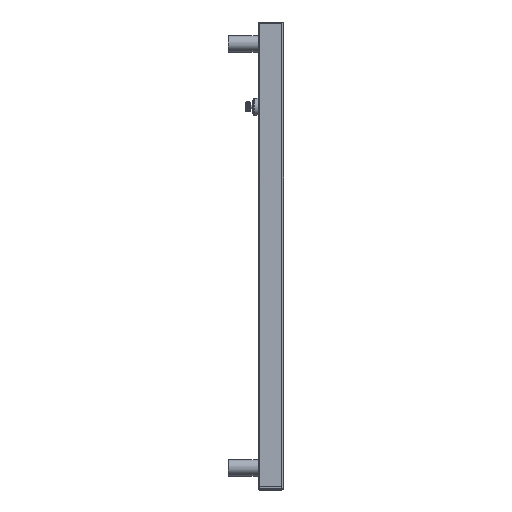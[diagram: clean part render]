
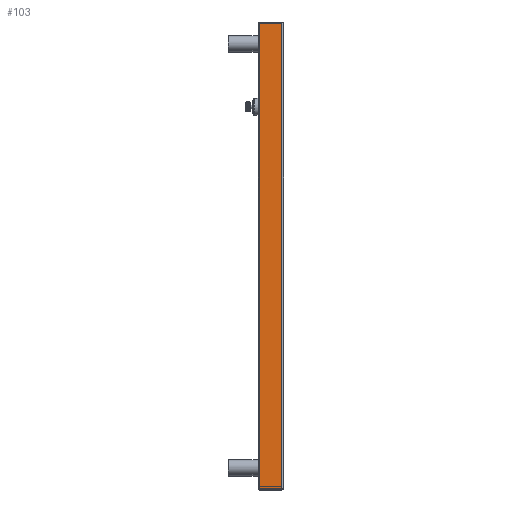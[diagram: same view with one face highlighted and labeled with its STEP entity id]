
A CAD part, top view. The second image highlights one B-rep face of the part: STEP entity #103.
In plain terms, the highlighted planar face has unit normal (0, 0, 1).
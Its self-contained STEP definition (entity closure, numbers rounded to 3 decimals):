
#103 = ADVANCED_FACE( '', ( #193 ), #194, .F. );
#193 = FACE_OUTER_BOUND( '', #313, .T. );
#194 = PLANE( '', #314 );
#313 = EDGE_LOOP( '', ( #545, #546, #547, #548 ) );
#314 = AXIS2_PLACEMENT_3D( '', #549, #550, #551 );
#545 = ORIENTED_EDGE( '', *, *, #904, .T. );
#546 = ORIENTED_EDGE( '', *, *, #905, .T. );
#547 = ORIENTED_EDGE( '', *, *, #906, .F. );
#548 = ORIENTED_EDGE( '', *, *, #907, .T. );
#549 = CARTESIAN_POINT( '', ( 15., -275., 25. ) );
#550 = DIRECTION( '', ( 0., 0., -1. ) );
#551 = DIRECTION( '', ( -1., 0., 0. ) );
#904 = EDGE_CURVE( '', #1192, #1193, #1194, .T. );
#905 = EDGE_CURVE( '', #1193, #1195, #1196, .F. );
#906 = EDGE_CURVE( '', #1197, #1195, #1198, .T. );
#907 = EDGE_CURVE( '', #1197, #1192, #1199, .T. );
#1192 = VERTEX_POINT( '', #2128 );
#1193 = VERTEX_POINT( '', #2129 );
#1194 = LINE( '', #2130, #2131 );
#1195 = VERTEX_POINT( '', #2132 );
#1196 = LINE( '', #2133, #2134 );
#1197 = VERTEX_POINT( '', #2135 );
#1198 = LINE( '', #2136, #2137 );
#1199 = LINE( '', #2138, #2139 );
#2128 = CARTESIAN_POINT( '', ( 13., 275., 25. ) );
#2129 = CARTESIAN_POINT( '', ( -13., 275., 25. ) );
#2130 = CARTESIAN_POINT( '', ( 15., 275., 25. ) );
#2131 = VECTOR( '', #2489, 1000. );
#2132 = CARTESIAN_POINT( '', ( -13., -275., 25. ) );
#2133 = CARTESIAN_POINT( '', ( -13., -275., 25. ) );
#2134 = VECTOR( '', #2490, 1000. );
#2135 = CARTESIAN_POINT( '', ( 13., -275., 25. ) );
#2136 = CARTESIAN_POINT( '', ( 15., -275., 25. ) );
#2137 = VECTOR( '', #2491, 1000. );
#2138 = CARTESIAN_POINT( '', ( 13., -275., 25. ) );
#2139 = VECTOR( '', #2492, 1000. );
#2489 = DIRECTION( '', ( -1., 0., 0. ) );
#2490 = DIRECTION( '', ( 0., 1., 0. ) );
#2491 = DIRECTION( '', ( -1., 0., 0. ) );
#2492 = DIRECTION( '', ( 0., 1., 0. ) );
